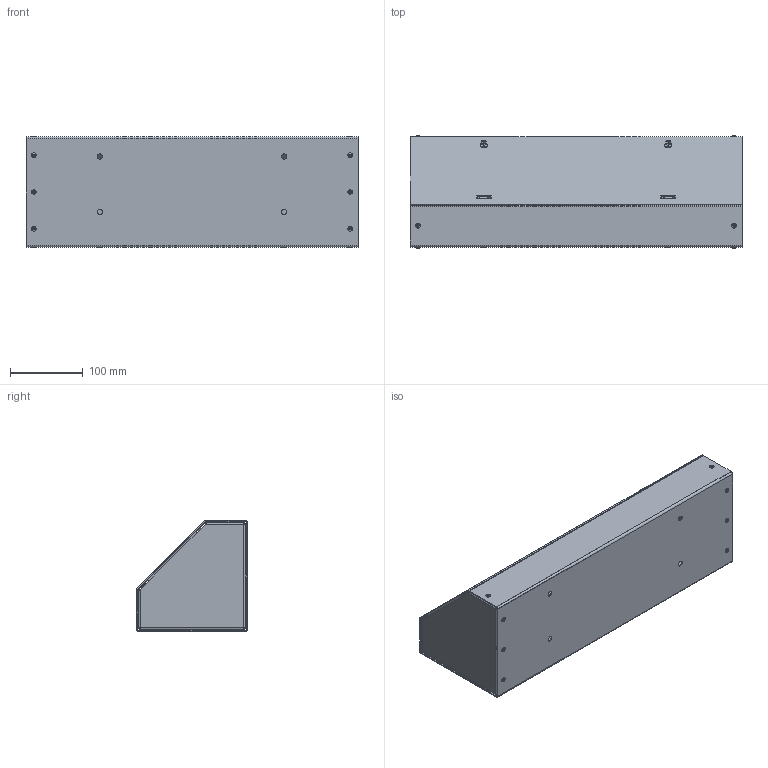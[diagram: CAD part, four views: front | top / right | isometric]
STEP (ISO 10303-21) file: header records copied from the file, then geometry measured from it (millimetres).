
FILE_DESCRIPTION (( 'STEP AP203' ), '1' );
FILE_NAME ('at6618.STEP', '2017-10-03T18:23:21', ( '' ), ( '' ), 'SwSTEP 2.0', 'SolidWorks 2014', '' );
FILE_SCHEMA (( 'CONFIG_CONTROL_DESIGN' ));
Length unit declared in the file: inch
Products named in the file (6): 89159102; 89159121; 16111002_INSTALLED .144 THICKNESS; 89159145; 89159125; at6618
Assembly tree (21 placements, depth 3):
  at6618
    89159145
      89159102
      89159121  x2
      16111002_INSTALLED .144 THICKNESS  x16
    89159125
Bounding box: 457.2 x 154.23 x 154.23 mm (x, y, z)
Volume: 442944.3 mm3; surface area: 642750.5 mm2
Topology: 20 solids, 20 shells, 714 faces, 1636 edges, 976 vertices
Faces by surface type: cylinder 280, plane 250, cone 96, bspline 80, torus 8
Entity records: 11394 total; most frequent: CARTESIAN_POINT 2209, DIRECTION 1732, ORIENTED_EDGE 1650, EDGE_CURVE 825, AXIS2_PLACEMENT_3D 608, LINE 516, VECTOR 516, VERTEX_POINT 515
